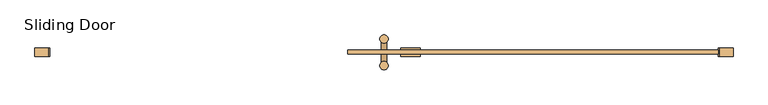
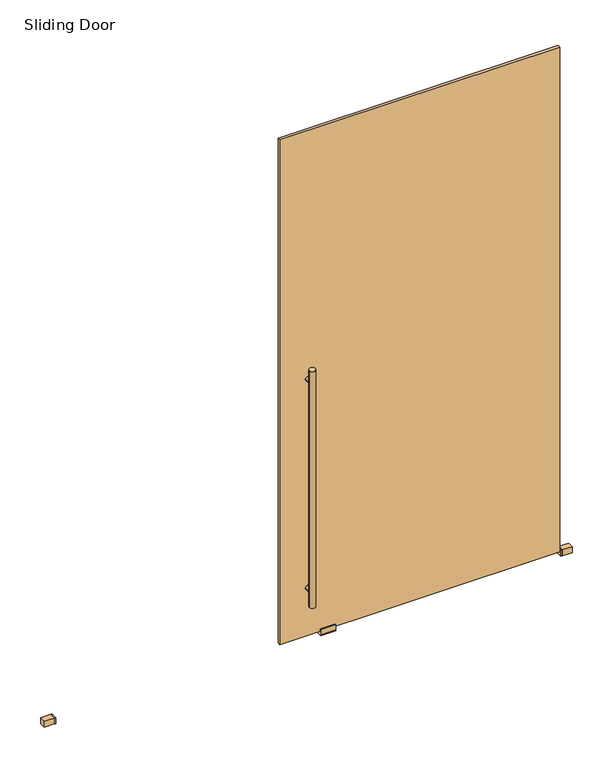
"""IFC4 building model written with IfcOpenShell, lengths in millimetres: door geometry, 2019_EN_Panel_Klein_Nature_Single-Door : Sliding Door."""

from ifc_helpers import new_model, si_unit, point, frame, frame_2d, origin, origin_with_axes, place, context, project, spatial, polyline, circle_curve, trimmed, segment, composite_curve, outline, extrude, source, transform, mapped, element, save


def sliding_door_9c017a84(model_context):
    return source(origin(), model_context, "Body", "SweptSolid", [
        extrude(outline(polyline([(339.9999999, -5.7), (1459.9999998, -5.7), (1459.9999998, -17.7), (339.9999999, -17.7), (339.9999999, -5.7)])), frame((0.0, 0.0, 15.0), z_axis=(0.0, 0.0, 1.0), x_axis=(1.0, 0.0, 0.0)), (0.0, 0.0, 1.0), 2133.1000015),
        extrude(outline(polyline([(-604.9999999, 0.8), (-564.9999999, 0.8), (-564.9999999, -24.2), (-604.9999999, -24.2), (-604.9999999, 0.8)])), origin_with_axes(), (0.0, 0.0, 1.0), 25.0),
        extrude(outline(polyline([(1464.9999998, 0.8), (1504.9999998, 0.8), (1504.9999998, -24.2), (1464.9999998, -24.2), (1464.9999998, 0.8)])), origin_with_axes(), (0.0, 0.0, 1.0), 25.0),
        extrude(outline(polyline([(-5.7, 25.0), (0.8, 25.0), (0.8, 5.0), (-0.2, 5.0), (-0.2, 0.0), (-23.2, 0.0), (-23.2, 5.0), (-24.2, 5.0), (-24.2, 25.0), (-17.7, 25.0), (-17.7, 15.0), (-5.7, 15.0), (-5.7, 25.0)])), frame((499.9999999, 0.0, 0.0), z_axis=(1.0, 0.0, 0.0), x_axis=(0.0, 1.0, 0.0)), (0.0, 0.0, 1.0), 60.0),
        extrude(outline(polyline([(-559.9999999, 0.8), (-559.9999999, -24.2), (-564.9999999, -24.2), (-564.9999999, 0.8), (-559.9999999, 0.8)])), origin_with_axes(), (0.0, 0.0, 1.0), 25.0),
        extrude(outline(polyline([(1459.9999998, -24.2), (1459.9999998, 0.8), (1464.9999998, 0.8), (1464.9999998, -24.2), (1459.9999998, -24.2)])), origin_with_axes(), (0.0, 0.0, 1.0), 25.0),
        extrude(outline(composite_curve([segment(trimmed(circle_curve(frame_2d((1100.55, 449.9999999)), 8.5), [point((1100.55, 458.4999999))], [point((1100.55, 441.4999999))], False, "CARTESIAN"), True, "CONTINUOUS"), segment(trimmed(circle_curve(frame_2d((1100.55, 449.9999999)), 8.5), [point((1100.55, 441.4999999))], [point((1100.55, 458.4999999))], False, "CARTESIAN"), True, "CONTINUOUS")], self_intersect=False)), frame((0.0, -52.2, 0.0), z_axis=(0.0, 1.0, 0.0), x_axis=(0.0, 0.0, 1.0)), (0.0, 0.0, 1.0), 82.0),
        extrude(outline(composite_curve([segment(trimmed(circle_curve(frame_2d((217.55, 449.9999999)), 8.5), [point((217.55, 458.4999999))], [point((217.55, 441.4999999))], False, "CARTESIAN"), True, "CONTINUOUS"), segment(trimmed(circle_curve(frame_2d((217.55, 449.9999999)), 8.5), [point((217.55, 441.4999999))], [point((217.55, 458.4999999))], False, "CARTESIAN"), True, "CONTINUOUS")], self_intersect=False)), frame((0.0, -52.2, 0.0), z_axis=(0.0, 1.0, 0.0), x_axis=(0.0, 0.0, 1.0)), (0.0, 0.0, 1.0), 82.0),
        extrude(outline(composite_curve([segment(trimmed(circle_curve(frame_2d((449.9999999, 28.76)), 12.7), [point((437.2999999, 28.76))], [point((462.6999999, 28.76))], False, "CARTESIAN"), True, "CONTINUOUS"), segment(trimmed(circle_curve(frame_2d((449.9999999, 28.76)), 12.7), [point((462.6999999, 28.76))], [point((437.2999999, 28.76))], False, "CARTESIAN"), True, "CONTINUOUS")], self_intersect=False)), frame((0.0, 0.0, 159.05), z_axis=(0.0, 0.0, 1.0), x_axis=(1.0, 0.0, 0.0)), (0.0, 0.0, 1.0), 1000.0),
        extrude(outline(composite_curve([segment(trimmed(circle_curve(frame_2d((449.9999999, -52.16)), 12.7), [point((437.2999999, -52.16))], [point((462.6999999, -52.16))], False, "CARTESIAN"), True, "CONTINUOUS"), segment(trimmed(circle_curve(frame_2d((449.9999999, -52.16)), 12.7), [point((462.6999999, -52.16))], [point((437.2999999, -52.16))], False, "CARTESIAN"), True, "CONTINUOUS")], self_intersect=False)), frame((0.0, 0.0, 159.05), z_axis=(0.0, 0.0, 1.0), x_axis=(1.0, 0.0, 0.0)), (0.0, 0.0, 1.0), 1000.0),
    ])


if __name__ == "__main__":
    model = new_model("IFC4")
    model_context = context("Model", 3, world=origin())
    ifc_project = project(units=[si_unit("LENGTHUNIT", "METRE", prefix="MILLI")], contexts=[model_context])
    site = spatial("IfcSite", under=ifc_project)
    building = spatial("IfcBuilding", under=site)
    placement = place(None, origin())
    sliding_door_shape = sliding_door_9c017a84(model_context)
    element("IfcDoor", 1, ObjectType="2019_EN_Panel_Klein_Nature_Single-Door : Sliding Door", at=placement, inside=building, context=model_context, shape_type="MappedRepresentation", body=[
        mapped(sliding_door_shape, transform((0.0, 0.0, 0.0), x_axis=(1.0, 0.0, 0.0), y_axis=(0.0, 1.0, 0.0), z_axis=(0.0, 0.0, 1.0))),
    ])
    save(model, "model.ifc")
